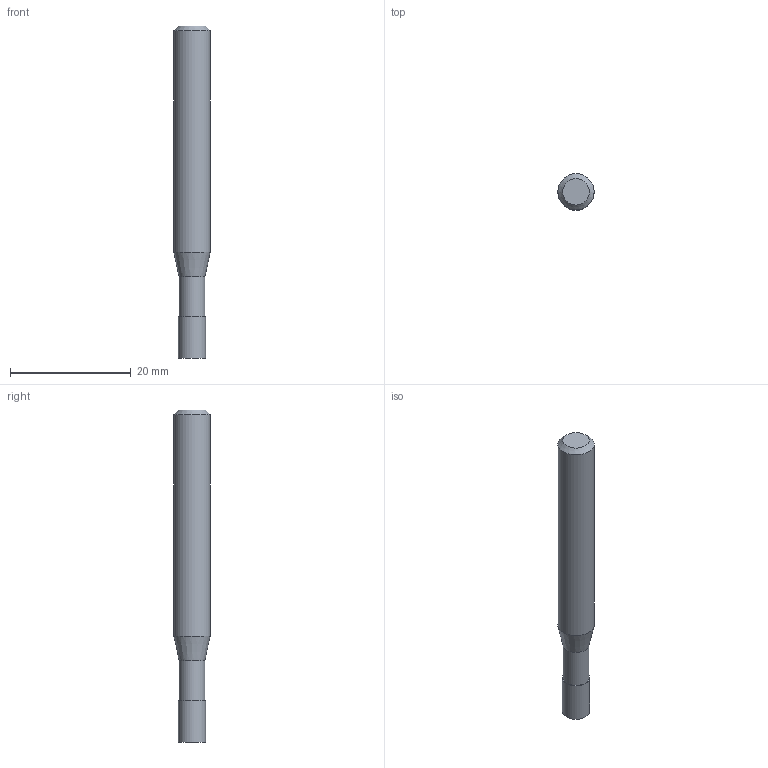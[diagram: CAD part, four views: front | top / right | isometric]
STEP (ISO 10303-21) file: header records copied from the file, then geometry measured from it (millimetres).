
FILE_DESCRIPTION((''),'2;1');
FILE_NAME('C:\Users\nsx150\AppData\Local\Temp\Mastercam 2021\EUJSUNXURU\TEMP.step','2021-04-22T10:35:31',(''),(''),'STEP Write','Mastercam 2021 ... CNC Software, Inc.','');
FILE_SCHEMA(('AUTOMOTIVE_DESIGN'));
Length unit declared in the file: millimetre
Products named in the file (1): None
Bounding box: 6 x 6 x 55 mm (x, y, z)
Volume: 1344.3 mm3; surface area: 1024.6 mm2
Topology: 2 solids, 2 shells, 9 faces, 12 edges, 7 vertices
Faces by surface type: plane 4, cylinder 3, cone 2
Full cylindrical faces by diameter (mm): 4.3 x1, 4.5 x1, 6 x1
Entity records: 211 total; most frequent: DIRECTION 36, CARTESIAN_POINT 25, AXIS2_PLACEMENT_3D 18, ORIENTED_EDGE 14, EDGE_LOOP 14, STYLED_ITEM 12, ADVANCED_FACE 9, FACE_BOUND 8
